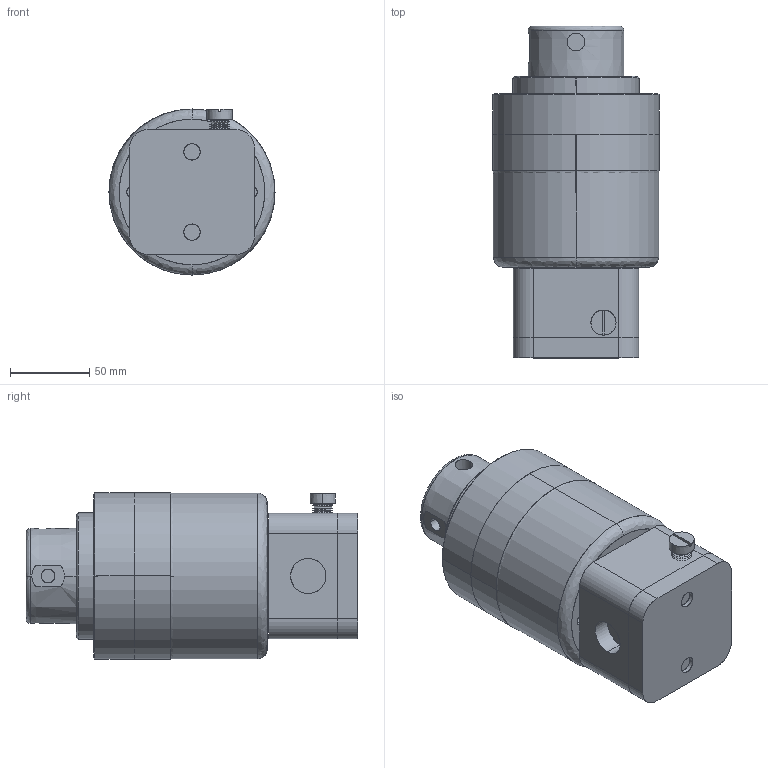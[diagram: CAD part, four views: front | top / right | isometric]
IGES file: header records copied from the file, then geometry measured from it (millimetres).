
Start section: SolidWorks IGES file using analytic representation for surfaces
Global section: file name: \\server\Users\Karen.Bodily\My Documents\defeatured\DBA030 INLINE.IGS; native system: SolidWorks 2012; preprocessor: SolidWorks 2012; author: karen.bodily; date: 130424.103405; units: inch
Bounding box: 105.08 x 209.96 x 105.08 mm (x, y, z)
Surface area: 166159.4 mm2 (no closed solid volume)
Topology: 0 solids, 0 shells, 389 faces, 5205 edges, 5205 vertices
Faces by surface type: revolution 302, bspline 87
